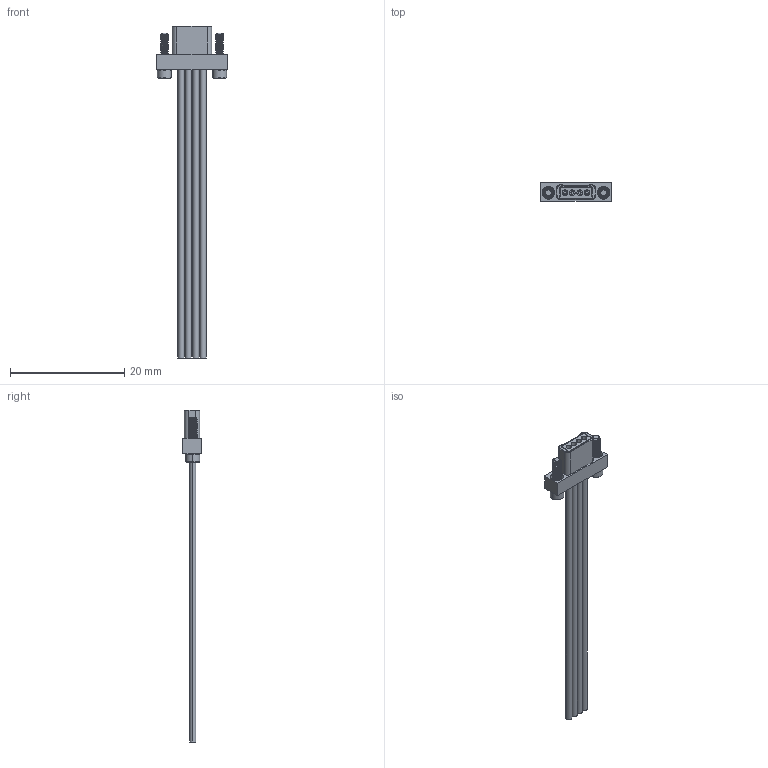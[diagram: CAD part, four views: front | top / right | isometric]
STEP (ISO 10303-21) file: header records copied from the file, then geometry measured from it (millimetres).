
FILE_DESCRIPTION (( 'STEP AP214' ), '1' );
FILE_NAME ('A91001-004 REV C.STEP', '2021-03-01T21:41:43', ( '' ), ( '' ), 'SwSTEP 2.0', 'SolidWorks 2019', '' );
FILE_SCHEMA (( 'AUTOMOTIVE_DESIGN' ));
Length unit declared in the file: inch
Products named in the file (1): A91001-004 REV C
Bounding box: 12.32 x 3.19 x 58.04 mm (x, y, z)
Volume: 362.5 mm3; surface area: 1380.4 mm2
Topology: 1 solids, 1 shells, 328 faces, 808 edges, 522 vertices
Faces by surface type: plane 132, cylinder 128, cone 30, bspline 22, torus 16
Entity records: 18128 total; most frequent: CARTESIAN_POINT 6317, ORIENTED_EDGE 1616, DIRECTION 1504, EDGE_CURVE 808, AXIS2_PLACEMENT_3D 541, VERTEX_POINT 522, VECTOR 422, LINE 422
